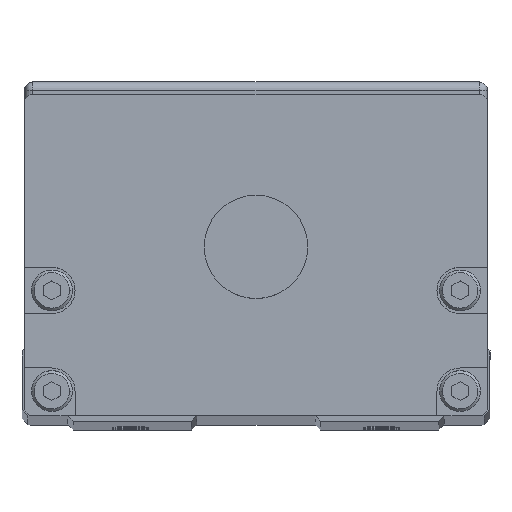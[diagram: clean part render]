
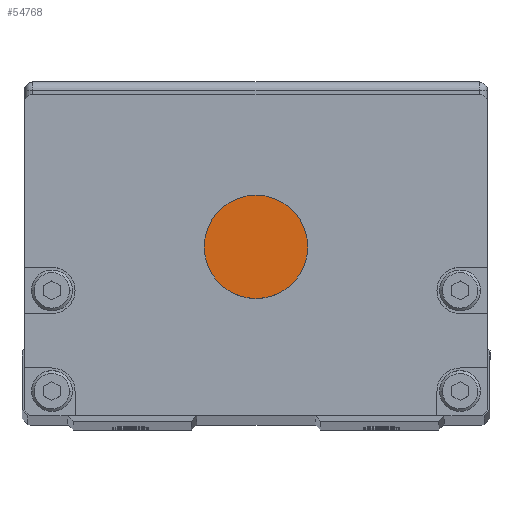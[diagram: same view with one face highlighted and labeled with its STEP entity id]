
A CAD part, top view. The second image highlights one B-rep face of the part: STEP entity #54768.
In plain terms, the highlighted planar face has unit normal (0, 0, 1).
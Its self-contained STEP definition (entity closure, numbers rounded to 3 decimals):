
#2483 = CIRCLE ( 'NONE', #45555, 9.5 ) ;
#3598 = CARTESIAN_POINT ( 'NONE',  ( 0., 22.1, 950.5 ) ) ;
#8723 = DIRECTION ( 'NONE',  ( 0., 0., 1. ) ) ;
#10678 = CARTESIAN_POINT ( 'NONE',  ( 0., 22.1, 950.5 ) ) ;
#12436 = DIRECTION ( 'NONE',  ( -1., 0., 0. ) ) ;
#13315 = EDGE_CURVE ( 'NONE', #17677, #21077, #27630, .T. ) ;
#15786 = DIRECTION ( 'NONE',  ( 0., 0., 1. ) ) ;
#17677 = VERTEX_POINT ( 'NONE', #28505 ) ;
#18374 = ORIENTED_EDGE ( 'NONE', *, *, #13315, .T. ) ;
#18684 = CARTESIAN_POINT ( 'NONE',  ( -9.5, 22.1, 950.5 ) ) ;
#18991 = CARTESIAN_POINT ( 'NONE',  ( 0., 22.1, 950.5 ) ) ;
#21077 = VERTEX_POINT ( 'NONE', #18684 ) ;
#27630 = CIRCLE ( 'NONE', #55481, 9.5 ) ;
#28505 = CARTESIAN_POINT ( 'NONE',  ( 9.5, 22.1, 950.5 ) ) ;
#29568 = FACE_OUTER_BOUND ( 'NONE', #53625, .T. ) ;
#42778 = EDGE_CURVE ( 'NONE', #21077, #17677, #2483, .T. ) ;
#43442 = DIRECTION ( 'NONE',  ( 1., 0., 0. ) ) ;
#45555 = AXIS2_PLACEMENT_3D ( 'NONE', #10678, #15786, #43442 ) ;
#46945 = DIRECTION ( 'NONE',  ( 1., 0., 0. ) ) ;
#51755 = DIRECTION ( 'NONE',  ( 0., 0., -1. ) ) ;
#52063 = ORIENTED_EDGE ( 'NONE', *, *, #42778, .T. ) ;
#53625 = EDGE_LOOP ( 'NONE', ( #18374, #52063 ) ) ;
#54768 = ADVANCED_FACE ( 'NONE', ( #29568 ), #68854, .F. ) ;
#55481 = AXIS2_PLACEMENT_3D ( 'NONE', #3598, #8723, #46945 ) ;
#56900 = AXIS2_PLACEMENT_3D ( 'NONE', #18991, #51755, #12436 ) ;
#68854 = PLANE ( 'NONE',  #56900 ) ;
